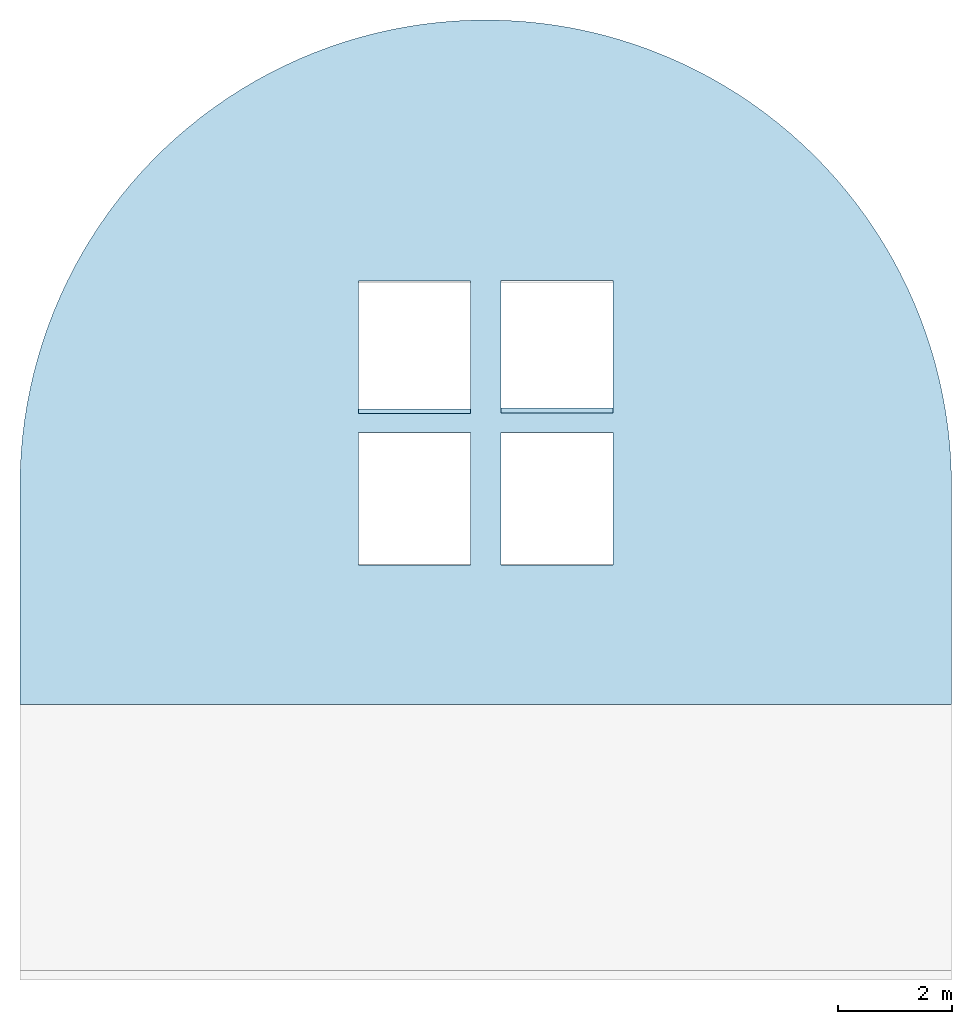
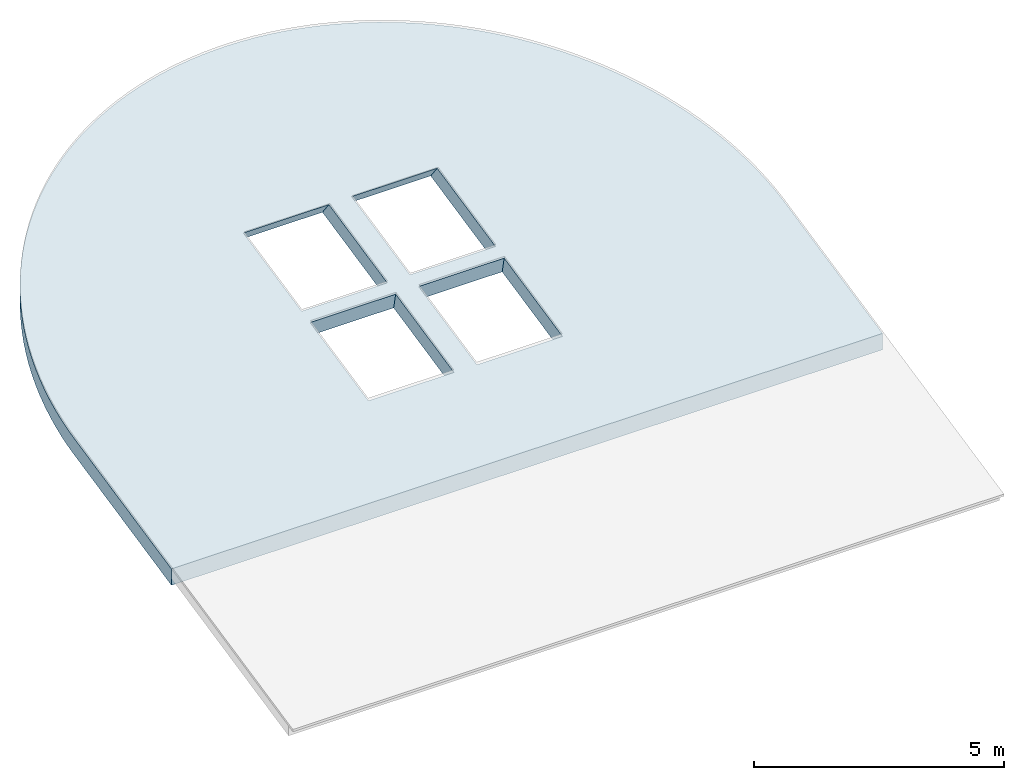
# One storey, part 3 of 3: 1 slab.
"""IFC4 building model written with IfcOpenShell, lengths in millimetres."""

from ifc_helpers import new_model, entity, si_unit, converted_unit, derived_unit, direction, frame, origin_with_axes, place, context, subcontext, project, spatial, polygons, material, type_object, element, save


model = new_model("IFC4")

# Units and contexts
model_context = context("Model", 3, precision=0.01, world=origin_with_axes(), true_north=direction((0.0, 1.0)))
body_context = subcontext(model_context, "Body", "Model", "MODEL_VIEW")
ifc_project = project(units=[si_unit("LENGTHUNIT", "METRE", prefix="MILLI"), si_unit("AREAUNIT", "SQUARE_METRE"), si_unit("VOLUMEUNIT", "CUBIC_METRE"), converted_unit("PLANEANGLEUNIT", "DEGREE", entity("IfcPlaneAngleMeasure", 0.0174532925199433), si_unit("PLANEANGLEUNIT", "RADIAN"), dimensions=[0, 0, 0, 0, 0, 0, 0]), converted_unit("TIMEUNIT", "Year", entity("IfcTimeMeasure", 31557600.0), si_unit("TIMEUNIT", "SECOND"), dimensions=[0, 0, 1, 0, 0, 0, 0]), si_unit("MASSUNIT", "GRAM", prefix="KILO"), si_unit("THERMODYNAMICTEMPERATUREUNIT", "DEGREE_CELSIUS"), si_unit("LUMINOUSINTENSITYUNIT", "LUMEN"), si_unit("ENERGYUNIT", "JOULE", prefix="MEGA"), derived_unit("THERMALCONDUCTANCEUNIT", [(si_unit("POWERUNIT", "WATT"), 1), (si_unit("LENGTHUNIT", "METRE"), -1), (si_unit("THERMODYNAMICTEMPERATUREUNIT", "KELVIN"), -1)]), derived_unit("SPECIFICHEATCAPACITYUNIT", [(si_unit("ENERGYUNIT", "JOULE"), 1), (si_unit("MASSUNIT", "GRAM", prefix="KILO"), -1), (si_unit("THERMODYNAMICTEMPERATUREUNIT", "KELVIN"), -1)]), derived_unit("MASSDENSITYUNIT", [(si_unit("MASSUNIT", "GRAM", prefix="KILO"), 1), (si_unit("VOLUMEUNIT", "CUBIC_METRE"), -1)])], contexts=[model_context])

# Site, building, storey
site_placement = place(None, origin_with_axes())
site = spatial("IfcSite", under=ifc_project, at=site_placement, Name="Exteriér", CompositionType="ELEMENT")
building_placement = place(site_placement, origin_with_axes())
building = spatial("IfcBuilding", under=site, at=building_placement, Name="Univerzitní lezecké centrum", CompositionType="ELEMENT")
storey_placement = place(building_placement, frame((0.0, 0.0, 12800.0), z_axis=(0.0, 0.0, 1.0), x_axis=(1.0, 0.0, 0.0)))
storey = spatial("IfcBuildingStorey", under=building, at=storey_placement, Name="Střecha", CompositionType="ELEMENT", Elevation=12800.0)

# Slab
ifc_material = material(Name="Ocelový válcovaný I profil")
slab_type = type_object("IfcSlabType", Name="Ocelový válcovaný I profil 391", PredefinedType="ROOF")
slab_placement = place(storey_placement, frame((-4450.14840074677, -15001.81368475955, -3771.078611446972), z_axis=(0.0, 0.0, 1.0), x_axis=(1.0, 0.0, 0.0)))
element("IfcSlab", 1, at=slab_placement, inside=storey, type_object=slab_type, material=ifc_material, Name="NS01", PredefinedType="ROOF", context=body_context, shape_type="Tessellation", body=[
    polygons([(-1300.000000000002, 23402.51969498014, 5374.359120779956), (-1300.000000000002, 19551.81368475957, 4555.866291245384), (15100.00002442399, 19551.81368475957, 4555.866291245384), (15099.99999999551, 23402.51969498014, 5374.359120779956), (15100.00010632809, 23546.45100866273, 5404.952665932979), (15089.89795667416, 23834.13632077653, 5466.102066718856), (15069.70589050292, 24121.28989066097, 5527.138442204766), (15039.44878434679, 24407.55794644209, 5587.986595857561), (14999.16391482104, 24692.5878071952, 5648.571563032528), (14948.90091269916, 24976.02831744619, 5708.818703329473), (14888.72170176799, 25257.53027979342, 5768.653792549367), (14818.7004225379, 25536.74688511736, 5828.003114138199), (14738.92334090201, 25813.33413984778, 5886.793550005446), (14649.48874185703, 26086.95128976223, 5944.952670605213), (14550.50680841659, 26357.26123979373, 6002.408824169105), (14442.09948586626, 26623.93096933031, 6059.091224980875), (14324.40033152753, 26886.63194249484, 6114.930040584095), (14197.55435021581, 27145.04051289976, 6169.856477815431), (14061.71781559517, 27398.83832237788, 6223.802867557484), (13917.05807764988, 27647.71269319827, 6276.702748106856), (13763.75335651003, 27891.35701328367, 6328.490947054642), (13601.99252288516, 28129.47111395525, 6379.10366157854), (13431.97486537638, 28361.76163973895, 6428.478537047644), (13253.90984495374, 28587.94240977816, 6476.554743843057), (13068.01683690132, 28807.73477040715, 6523.273052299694), (12874.52486054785, 29020.86793845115, 6568.575905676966), (12673.67229711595, 29227.07933482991, 6612.407491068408), (12465.70659603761, 29426.11490805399, 6654.71380816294), (12250.88397009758, 29617.72944721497, 6695.442735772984), (12029.46907978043, 29801.68688408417, 6734.544096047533), (11801.73470721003, 29977.76058394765, 6771.969716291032), (11567.96142008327, 30145.73362481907, 6807.67348831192), (11328.43722601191, 30305.39906468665, 6841.611425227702), (11083.45721769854, 30456.56019646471, 6873.741715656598), (10833.32320938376, 30599.03079033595, 6904.024775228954), (10578.34336501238, 30732.63532318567, 6932.423295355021), (10318.83181857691, 30857.20919484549, 6958.902289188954), (10055.1082871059, 30972.59893087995, 6983.429134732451), (9787.497676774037, 31078.66237166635, 7005.973615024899), (9516.329682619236, 31175.26884753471, 7026.507955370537), (9241.938382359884, 31262.29933975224, 7045.006857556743), (8964.66182481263, 31339.64662715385, 7061.447531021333), (8684.841613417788, 31407.21541823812, 7075.809720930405), (8402.822485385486, 31464.922468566, 7088.075733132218), (8118.951886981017, 31512.6966833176, 7098.230455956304), (7833.579545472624, 31550.47920488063, 7106.261378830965), (7547.057038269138, 31578.22348536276, 7112.158607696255), (7259.737359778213, 31595.89534393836, 7115.914877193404), (6971.974486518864, 31603.47300895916, 7117.525559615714), (6684.122941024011, 31600.94714477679, 7116.988670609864), (6396.537355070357, 31588.32086324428, 7114.304871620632), (6109.572032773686, 31565.60971988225, 7109.477469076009), (5823.580514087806, 31532.84169471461, 7102.512410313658), (5538.915139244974, 31490.05715779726, 7093.41827625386), (5255.92661467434, 31437.30881948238, 7082.206270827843), (4974.963580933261, 31374.66166547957, 7068.89020717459), (4696.372183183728, 31302.19287679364, 7053.486490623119), (4420.495644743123, 31219.99173463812, 7036.014098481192), (4147.673844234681, 31128.15951044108, 7016.49455665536), (3878.242896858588, 31026.80934107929, 6994.951913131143), (3612.534740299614, 30916.06608949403, 6971.412708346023), (3350.876725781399, 30796.06619086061, 6945.905942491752), (3093.591214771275, 30666.95748450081, 6918.46303978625), (2840.995181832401, 30528.8990317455, 6889.117809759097), (2593.399824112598, 30382.06091997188, 6857.906405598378), (2351.110177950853, 30226.62405305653, 6824.867279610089), (2114.424743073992, 30062.77992850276, 6790.041135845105), (1883.635114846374, 29890.73040151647, 6753.470879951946), (1659.025625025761, 29710.68743632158, 6715.201566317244), (1440.872991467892, 29522.87284502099, 6675.280342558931), (1229.445977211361, 29327.51801432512, 6633.756391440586), (1025.005059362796, 29124.86362048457, 6590.680870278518), (827.8021081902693, 28915.15933277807, 6546.106847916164), (638.0800768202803, 28698.66350592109, 6500.089239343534), (456.0727019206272, 28475.642861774, 6452.684738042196), (282.0042157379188, 28246.372160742, 6403.951746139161), (116.0890698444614, 28011.13386327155, 6353.950302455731), (-41.46832906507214, 27770.2177818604, 6302.74200853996), (-190.4738710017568, 27523.92072400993, 6250.389952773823), (-330.743981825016, 27272.54612655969, 6196.958632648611), (-462.1058494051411, 27016.40368185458, 6142.513875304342), (-584.3976365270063, 26755.80895620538, 6087.122756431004), (-697.4686802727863, 26491.08300111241, 6030.853517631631), (-801.1796776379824, 26222.55195773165, 5973.775482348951), (-895.4028571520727, 25950.54665507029, 5915.95897045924), (-980.0221362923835, 25675.40220240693, 5857.475211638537), (-1054.933264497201, 25397.45757643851, 5798.396257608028), (-1120.043951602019, 25117.05520366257, 5738.794893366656), (-1175.273981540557, 24834.54053850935, 5678.744547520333), (-1220.555311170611, 24550.26163774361, 5618.319201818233), (-1255.832154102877, 24264.56873166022, 5557.59330000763), (-1281.061049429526, 23977.81379260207, 5496.641656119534), (-1296.210915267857, 23690.35010133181, 5435.539362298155), (7164.463952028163, 27017.33676688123, 6142.71220864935), (9138.87531527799, 27017.33676688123, 6142.71220864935), (9138.87531527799, 24688.28934937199, 5647.657897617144), (7164.463952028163, 24688.28934937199, 5647.657897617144), (9138.87531527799, 24341.10244345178, 5573.861042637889), (9138.87531527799, 22009.55330526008, 5078.274974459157), (7164.463952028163, 22009.55330526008, 5078.274974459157), (7164.463952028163, 24341.10244345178, 5573.861042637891), (6635.38688765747, 22009.55330526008, 5078.274974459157), (4660.975524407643, 22009.55330526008, 5078.274974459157), (4660.975524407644, 24339.18409107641, 5573.45328425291), (6635.38688765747, 24339.18409107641, 5573.45328425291), (4660.975524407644, 24674.99691642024, 5644.83250377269), (4660.975524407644, 27006.28968164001, 6140.364078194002), (6635.38688765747, 27006.28968164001, 6140.364078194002), (6635.38688765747, 24674.99691642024, 5644.83250377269), (-1299.999999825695, 23402.51970027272, 4974.359121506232), (-1299.999999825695, 19551.81368461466, 4155.866290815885), (15100.00002529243, 19551.81368461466, 4155.866290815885), (15099.99999961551, 23483.86702393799, 4991.65002892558), (15100.00004618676, 23546.45273562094, 5004.95303261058), (15089.89795687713, 23834.13631857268, 5066.102065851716), (15069.70589076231, 24121.28988654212, 5127.138440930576), (15039.44878369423, 24407.55795462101, 5187.986597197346), (14999.16391587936, 24692.58779879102, 5248.571560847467), (14948.90091161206, 24976.02832395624, 5308.818704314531), (14888.72170252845, 25257.53027610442, 5368.653791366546), (14818.70042244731, 25536.74688539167, 5428.003113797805), (14738.92333961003, 25813.33414472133, 5486.793550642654), (14649.488744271, 26086.95128159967, 5544.952668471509), (14550.50680586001, 26357.26124687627, 5602.408825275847), (14442.09948841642, 26623.93096253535, 5659.091223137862), (14324.40032912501, 26886.63194794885, 5714.930041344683), (14197.55435147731, 27145.04051005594, 5769.85647681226), (14061.71781497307, 27398.83832327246, 5823.802867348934), (13917.05807913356, 27647.71269026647, 5876.702747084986), (13763.75335625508, 27891.35701372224, 5928.490946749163), (13601.99252077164, 28129.4711176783, 5979.103661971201), (13431.97486657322, 28361.76163835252, 6028.478536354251), (13253.90984630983, 28587.94240805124, 6076.55474307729), (13068.01683594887, 28807.73477183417, 6123.273052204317), (12874.52485973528, 29020.86793963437, 6168.575905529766), (12673.67229891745, 29227.07933291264, 6212.40749026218), (12465.7065951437, 29426.11490894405, 6254.713807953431), (12250.88397015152, 29617.72944715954, 6295.442735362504), (12029.46908113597, 29801.6868827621, 6334.54409536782), (11801.73470597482, 29977.76058502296, 6371.969716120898), (11567.96141956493, 30145.73362536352, 6407.673488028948), (11328.4372254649, 30305.39906511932, 6441.611424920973), (11083.45721794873, 30456.56019613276, 6473.741715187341), (10833.32321168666, 30599.03078868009, 6504.024774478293), (10578.34336237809, 30732.63532467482, 6532.423295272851), (10318.83181969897, 30857.20919410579, 6558.902288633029), (10055.10828818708, 30972.59893025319, 6583.429134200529), (9787.497676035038, 31078.66237217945, 6605.973614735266), (9516.329681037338, 31175.26884845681, 6626.507955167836), (9241.938384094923, 31262.29933913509, 6645.006857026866), (8964.661823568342, 31339.64662765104, 6661.447530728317), (8684.84161360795, 31407.21541820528, 6675.809720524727), (8402.82248541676, 31464.92246855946, 6688.075732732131), (8118.951886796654, 31512.69668351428, 6698.230455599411), (7833.579545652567, 31550.47920516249, 6706.261378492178), (7547.057037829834, 31578.22348566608, 6712.158607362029), (7259.737359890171, 31595.89534350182, 6715.914876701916), (6971.974486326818, 31603.47300933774, 6717.525559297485), (6684.122941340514, 31600.94714472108, 6716.988670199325), (6396.537355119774, 31588.32086337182, 6714.304871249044), (6109.572032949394, 31565.60972015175, 6709.477468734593), (5823.580512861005, 31532.84169439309, 6702.512409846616), (5538.915140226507, 31490.05715815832, 6693.418275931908), (5255.926614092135, 31437.30881942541, 6682.206270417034), (4974.963581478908, 31374.66166586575, 6668.890206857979), (4696.37218368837, 31302.19287718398, 6653.48649030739), (4420.495643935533, 31219.9917343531, 6636.014098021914), (4147.67384545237, 31128.15951107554, 6616.494556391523), (3878.242897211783, 31026.80934118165, 6594.951912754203), (3612.534739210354, 30916.06608867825, 6571.412707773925), (3350.876724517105, 30796.06618994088, 6545.905941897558), (3093.591218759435, 30666.95748674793, 6518.463039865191), (2840.995179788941, 30528.89903001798, 6489.117808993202), (2593.39982305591, 30382.06091896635, 6457.906404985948), (2351.11017864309, 30226.62405376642, 6424.867279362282), (2114.424746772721, 30062.77993167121, 6390.041136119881), (1883.635112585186, 29890.73039936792, 6353.470879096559), (1659.02562379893, 29710.68743487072, 6315.201565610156), (1440.872992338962, 29522.87284572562, 6275.280342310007), (1229.445976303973, 29327.51801343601, 6233.756390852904), (1025.005063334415, 29124.86362475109, 6190.680870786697), (827.8021041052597, 28915.15932740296, 6146.10684637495), (638.0800793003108, 28698.66350860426, 6100.08923951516), (456.0727001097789, 28475.64285896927, 6052.684737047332), (282.0042177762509, 28246.37216356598, 6003.951746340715), (116.0890689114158, 28011.1338615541, 5953.950301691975), (-41.46832945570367, 27770.21778125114, 5902.74200801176), (-190.4738690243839, 27523.92072791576, 5850.389953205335), (-330.7439842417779, 27272.5461219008, 5796.958631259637), (-462.1058460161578, 27016.40368952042, 5742.513876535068), (-584.3976394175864, 26755.80894884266, 5687.12275446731), (-697.4686785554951, 26491.08300536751, 5630.853518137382), (-801.1796784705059, 26222.55195453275, 5573.775481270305), (-895.4028565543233, 25950.5466565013, 5515.958970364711), (-980.0221374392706, 25675.40219790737, 5457.475210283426), (-1054.933264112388, 25397.45757955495, 5398.396257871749), (-1120.043951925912, 25117.0552040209, 5338.794893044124), (-1175.273981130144, 24834.54054261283, 5278.744547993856), (-1220.555311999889, 24550.26163089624, 5218.31919996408), (-1255.832153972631, 24264.5687353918, 5157.593300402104), (-1281.061049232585, 23977.81379590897, 5096.641656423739), (-1296.210915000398, 23690.35009589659, 5035.539360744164), (9138.87531527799, 27277.14427598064, 5797.935999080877), (7164.463952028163, 27277.14427598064, 5797.935999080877), (9138.87531527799, 24769.63667806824, 5264.94880570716), (7164.463952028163, 24769.63667806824, 5264.94880570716), (9138.87531527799, 24422.44977214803, 5191.151950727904), (9138.87531527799, 21912.44045355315, 4657.633000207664), (7164.463952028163, 21912.44045355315, 4657.633000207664), (7164.463952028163, 24422.44977214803, 5191.151950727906), (4660.975524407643, 21912.44045355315, 4657.633000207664), (6635.38688765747, 21912.44045355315, 4657.633000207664), (4660.975524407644, 24420.53141977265, 5190.744192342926), (6635.38688765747, 24420.53141977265, 5190.744192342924), (4660.975524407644, 24756.34424511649, 5262.123411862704), (4660.975524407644, 27266.09719073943, 5795.587868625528), (6635.38688765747, 27266.09719073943, 5795.587868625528), (6635.38688765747, 24756.34424511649, 5262.123411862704)], [[[1, 2, 3, 4, 5, 6, 7, 8, 9, 10, 11, 12, 13, 14, 15, 16, 17, 18, 19, 20, 21, 22, 23, 24, 25, 26, 27, 28, 29, 30, 31, 32, 33, 34, 35, 36, 37, 38, 39, 40, 41, 42, 43, 44, 45, 46, 47, 48, 49, 50, 51, 52, 53, 54, 55, 56, 57, 58, 59, 60, 61, 62, 63, 64, 65, 66, 67, 68, 69, 70, 71, 72, 73, 74, 75, 76, 77, 78, 79, 80, 81, 82, 83, 84, 85, 86, 87, 88, 89, 90, 91, 92, 93], [94, 95, 96, 97], [98, 99, 100, 101], [102, 103, 104, 105], [106, 107, 108, 109]], [[2, 1, 110, 111]], [[3, 2, 111, 112]], [[4, 3, 112, 113]], [[5, 4, 113, 114]], [[6, 5, 114, 115]], [[7, 6, 115, 116]], [[8, 7, 116, 117]], [[9, 8, 117, 118]], [[10, 9, 118, 119]], [[11, 10, 119, 120]], [[12, 11, 120, 121]], [[13, 12, 121, 122]], [[14, 13, 122, 123]], [[15, 14, 123, 124]], [[16, 15, 124, 125]], [[17, 16, 125, 126]], [[18, 17, 126, 127]], [[19, 18, 127, 128]], [[20, 19, 128, 129]], [[21, 20, 129, 130]], [[22, 21, 130, 131]], [[23, 22, 131, 132]], [[24, 23, 132, 133]], [[25, 24, 133, 134]], [[26, 25, 134, 135]], [[27, 26, 135, 136]], [[28, 27, 136, 137]], [[29, 28, 137, 138]], [[30, 29, 138, 139]], [[31, 30, 139, 140]], [[32, 31, 140, 141]], [[33, 32, 141, 142]], [[34, 33, 142, 143]], [[35, 34, 143, 144]], [[36, 35, 144, 145]], [[37, 36, 145, 146]], [[38, 37, 146, 147]], [[39, 38, 147, 148]], [[40, 39, 148, 149]], [[41, 40, 149, 150]], [[42, 41, 150, 151]], [[43, 42, 151, 152]], [[44, 43, 152, 153]], [[45, 44, 153, 154]], [[46, 45, 154, 155]], [[47, 46, 155, 156]], [[48, 47, 156, 157]], [[49, 48, 157, 158]], [[50, 49, 158, 159]], [[51, 50, 159, 160]], [[52, 51, 160, 161]], [[53, 52, 161, 162]], [[54, 53, 162, 163]], [[55, 54, 163, 164]], [[56, 55, 164, 165]], [[57, 56, 165, 166]], [[58, 57, 166, 167]], [[59, 58, 167, 168]], [[60, 59, 168, 169]], [[61, 60, 169, 170]], [[62, 61, 170, 171]], [[63, 62, 171, 172]], [[64, 63, 172, 173]], [[65, 64, 173, 174]], [[66, 65, 174, 175]], [[67, 66, 175, 176]], [[68, 67, 176, 177]], [[69, 68, 177, 178]], [[70, 69, 178, 179]], [[71, 70, 179, 180]], [[72, 71, 180, 181]], [[73, 72, 181, 182]], [[74, 73, 182, 183]], [[75, 74, 183, 184]], [[76, 75, 184, 185]], [[77, 76, 185, 186]], [[78, 77, 186, 187]], [[79, 78, 187, 188]], [[80, 79, 188, 189]], [[81, 80, 189, 190]], [[82, 81, 190, 191]], [[83, 82, 191, 192]], [[84, 83, 192, 193]], [[85, 84, 193, 194]], [[86, 85, 194, 195]], [[87, 86, 195, 196]], [[88, 87, 196, 197]], [[89, 88, 197, 198]], [[90, 89, 198, 199]], [[91, 90, 199, 200]], [[92, 91, 200, 201]], [[93, 92, 201, 202]], [[1, 93, 202, 110]], [[203, 95, 94, 204]], [[205, 96, 95, 203]], [[206, 97, 96, 205]], [[204, 94, 97, 206]], [[99, 98, 207, 208]], [[208, 209, 100, 99]], [[101, 100, 209, 210]], [[98, 101, 210, 207]], [[211, 103, 102, 212]], [[103, 211, 213, 104]], [[104, 213, 214, 105]], [[105, 214, 212, 102]], [[215, 216, 107, 106]], [[216, 217, 108, 107]], [[217, 218, 109, 108]], [[218, 215, 106, 109]], [[119, 118, 117, 116, 115, 114, 113, 112, 111, 110, 202, 201, 200, 199, 198, 197, 196, 195, 194, 193, 192, 191, 190, 189, 188, 187, 186, 185, 184, 183, 182, 181, 180, 179, 178, 177, 176, 175, 174, 173, 172, 171, 170, 169, 168, 167, 166, 165, 164, 163, 162, 161, 160, 159, 158, 157, 156, 155, 154, 153, 152, 151, 150, 149, 148, 147, 146, 145, 144, 143, 142, 141, 140, 139, 138, 137, 136, 135, 134, 133, 132, 131, 130, 129, 128, 127, 126, 125, 124, 123, 122, 121, 120], [205, 203, 204, 206], [207, 210, 209, 208], [213, 211, 212, 214], [215, 218, 217, 216]]], closed=True),
])

save(model, "model.ifc")
